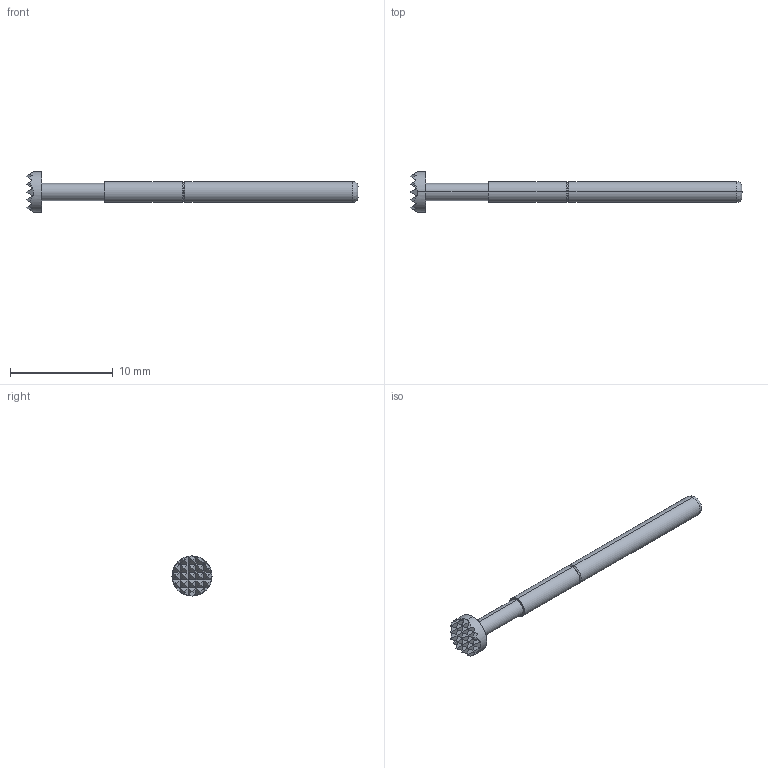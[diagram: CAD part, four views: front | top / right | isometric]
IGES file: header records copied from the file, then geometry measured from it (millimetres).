
Start section: SolidWorks IGES file using analytic representation for surfaces
Global section: file name: O:\PYLON\IGES FILES\P2665\P2665G-2W1S.IGS; native system: SolidWorks 2015; preprocessor: SolidWorks 2015; author: kgolden; date: 171019.141238; units: inch
Bounding box: 32.25 x 3.89 x 3.89 mm (x, y, z)
Surface area: 247.3 mm2 (no closed solid volume)
Topology: 0 solids, 0 shells, 103 faces, 494 edges, 494 vertices
Faces by surface type: bspline 93, revolution 10
